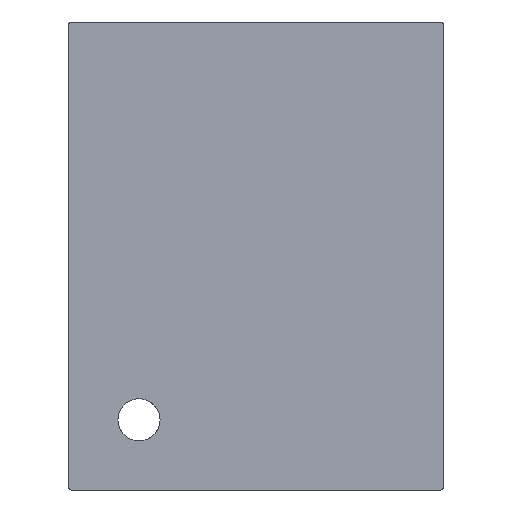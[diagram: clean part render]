
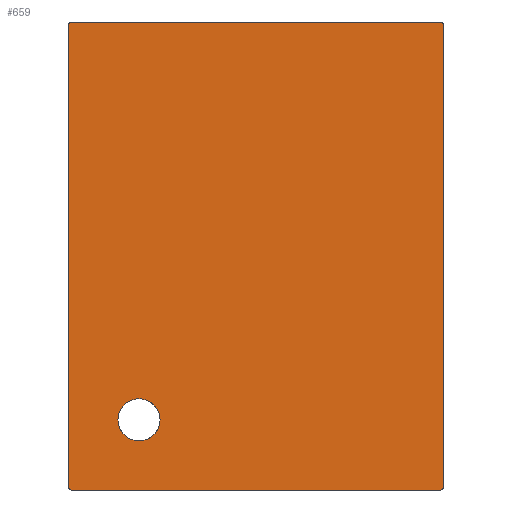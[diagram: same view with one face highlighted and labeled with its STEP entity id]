
A CAD part, front view. The second image highlights one B-rep face of the part: STEP entity #659.
In plain terms, the highlighted planar face has unit normal (0, -1, 0).
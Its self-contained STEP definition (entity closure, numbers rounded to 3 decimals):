
#57=FACE_BOUND('',#108,.T.);
#60=FACE_OUTER_BOUND('',#107,.T.);
#107=EDGE_LOOP('',(#450,#451,#452,#453,#454,#455,#456,#457));
#108=EDGE_LOOP('',(#458));
#157=LINE('',#1047,#203);
#158=LINE('',#1051,#204);
#159=LINE('',#1055,#205);
#160=LINE('',#1058,#206);
#203=VECTOR('',#817,10.);
#204=VECTOR('',#820,10.);
#205=VECTOR('',#823,10.);
#206=VECTOR('',#826,10.);
#249=CIRCLE('',#721,5.);
#250=CIRCLE('',#722,5.);
#251=CIRCLE('',#723,5.);
#252=CIRCLE('',#724,5.);
#253=CIRCLE('',#725,45.);
#296=VERTEX_POINT('',#1043);
#297=VERTEX_POINT('',#1044);
#298=VERTEX_POINT('',#1046);
#299=VERTEX_POINT('',#1048);
#300=VERTEX_POINT('',#1050);
#301=VERTEX_POINT('',#1052);
#302=VERTEX_POINT('',#1054);
#303=VERTEX_POINT('',#1056);
#304=VERTEX_POINT('',#1059);
#351=EDGE_CURVE('',#296,#297,#249,.T.);
#352=EDGE_CURVE('',#298,#296,#157,.T.);
#353=EDGE_CURVE('',#299,#298,#250,.T.);
#354=EDGE_CURVE('',#300,#299,#158,.T.);
#355=EDGE_CURVE('',#301,#300,#251,.T.);
#356=EDGE_CURVE('',#302,#301,#159,.T.);
#357=EDGE_CURVE('',#303,#302,#252,.T.);
#358=EDGE_CURVE('',#297,#303,#160,.T.);
#359=EDGE_CURVE('',#304,#304,#253,.T.);
#450=ORIENTED_EDGE('',*,*,#351,.F.);
#451=ORIENTED_EDGE('',*,*,#352,.F.);
#452=ORIENTED_EDGE('',*,*,#353,.F.);
#453=ORIENTED_EDGE('',*,*,#354,.F.);
#454=ORIENTED_EDGE('',*,*,#355,.F.);
#455=ORIENTED_EDGE('',*,*,#356,.F.);
#456=ORIENTED_EDGE('',*,*,#357,.F.);
#457=ORIENTED_EDGE('',*,*,#358,.F.);
#458=ORIENTED_EDGE('',*,*,#359,.F.);
#648=PLANE('',#720);
#659=ADVANCED_FACE('',(#60,#57),#648,.F.);
#720=AXIS2_PLACEMENT_3D('',#1042,#813,#814);
#721=AXIS2_PLACEMENT_3D('',#1045,#815,#816);
#722=AXIS2_PLACEMENT_3D('',#1049,#818,#819);
#723=AXIS2_PLACEMENT_3D('',#1053,#821,#822);
#724=AXIS2_PLACEMENT_3D('',#1057,#824,#825);
#725=AXIS2_PLACEMENT_3D('',#1060,#827,#828);
#813=DIRECTION('center_axis',(0.,1.,0.));
#814=DIRECTION('ref_axis',(0.,0.,1.));
#815=DIRECTION('center_axis',(0.,1.,0.));
#816=DIRECTION('ref_axis',(0.707,0.,-0.707));
#817=DIRECTION('',(0.,0.,-1.));
#818=DIRECTION('center_axis',(0.,1.,0.));
#819=DIRECTION('ref_axis',(0.707,0.,0.707));
#820=DIRECTION('',(1.,0.,0.));
#821=DIRECTION('center_axis',(0.,1.,0.));
#822=DIRECTION('ref_axis',(-0.707,0.,0.707));
#823=DIRECTION('',(0.,0.,1.));
#824=DIRECTION('center_axis',(0.,1.,0.));
#825=DIRECTION('ref_axis',(-0.707,0.,-0.707));
#826=DIRECTION('',(-1.,0.,0.));
#827=DIRECTION('center_axis',(0.,-1.,0.));
#828=DIRECTION('ref_axis',(0.,0.,-1.));
#1042=CARTESIAN_POINT('Origin',(0.,75.,0.));
#1043=CARTESIAN_POINT('',(400.,75.,-495.));
#1044=CARTESIAN_POINT('',(395.,75.,-500.));
#1045=CARTESIAN_POINT('Origin',(395.,75.,-495.));
#1046=CARTESIAN_POINT('',(400.,75.,495.));
#1047=CARTESIAN_POINT('',(400.,75.,250.));
#1048=CARTESIAN_POINT('',(395.,75.,500.));
#1049=CARTESIAN_POINT('Origin',(395.,75.,495.));
#1050=CARTESIAN_POINT('',(-395.,75.,500.));
#1051=CARTESIAN_POINT('',(-200.,75.,500.));
#1052=CARTESIAN_POINT('',(-400.,75.,495.));
#1053=CARTESIAN_POINT('Origin',(-395.,75.,495.));
#1054=CARTESIAN_POINT('',(-400.,75.,-495.));
#1055=CARTESIAN_POINT('',(-400.,75.,-250.));
#1056=CARTESIAN_POINT('',(-395.,75.,-500.));
#1057=CARTESIAN_POINT('Origin',(-395.,75.,-495.));
#1058=CARTESIAN_POINT('',(200.,75.,-500.));
#1059=CARTESIAN_POINT('',(-250.,75.,-305.));
#1060=CARTESIAN_POINT('Origin',(-250.,75.,-350.));
